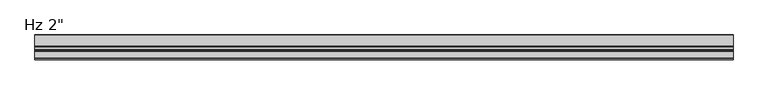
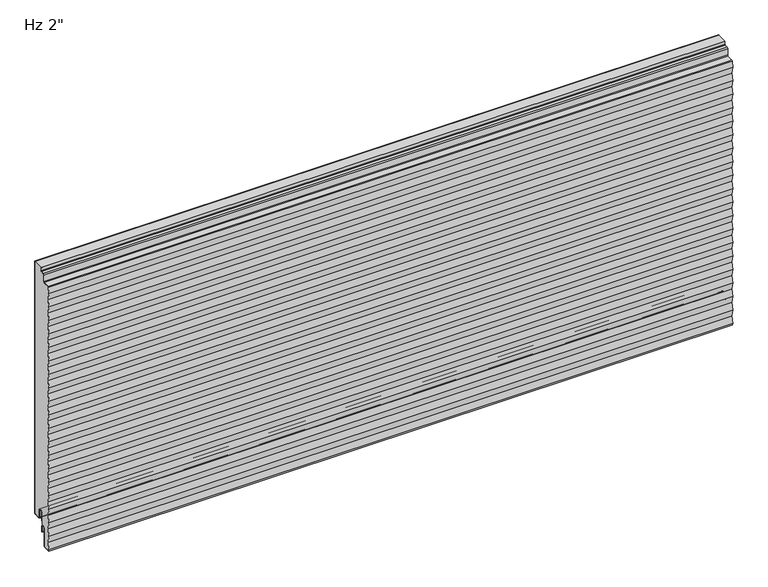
"""IFC4 building model written with IfcOpenShell, lengths in millimetres: plate geometry."""

from ifc_helpers import new_model, si_unit, point, frame, frame_2d, origin, place, context, project, spatial, polyline, circle_curve, trimmed, segment, composite_curve, outline, extrude, source, transform, mapped, element, save


def plate_2a746afc(model_context):
    return source(origin(), model_context, "Body", "SweptSolid", [
        extrude(outline(composite_curve([segment(polyline([(-22.8125, 564.5620957), (-22.8125, 571.2), (-1.0, 571.2), (-1.0, 3.175)]), True, "CONTINUOUS"), segment(trimmed(circle_curve(frame_2d((-2.38125, 3.175)), 1.38125), [point((-1.0, 3.175))], [point((-2.38125, 1.79375))], False, "CARTESIAN"), True, "CONTINUOUS"), segment(polyline([(-2.38125, 1.79375), (-15.08125, 1.79375)]), True, "CONTINUOUS"), segment(trimmed(circle_curve(frame_2d((-15.08125, 3.175)), 1.38125), [point((-15.08125, 1.79375))], [point((-16.4625, 3.175))], False, "CARTESIAN"), True, "CONTINUOUS"), segment(polyline([(-16.4625, 3.175), (-16.4625, 19.05)]), True, "CONTINUOUS"), segment(trimmed(circle_curve(frame_2d((-21.43125, 19.05)), 4.96875), [point((-16.4625, 19.05))], [point((-26.4, 19.05))], True, "CARTESIAN"), True, "CONTINUOUS"), segment(polyline([(-26.4, 19.05), (-26.4, -6.9375), (-30.95625, -6.9375)]), True, "CONTINUOUS"), segment(trimmed(circle_curve(frame_2d((-30.95625, -11.90625)), 4.96875), [point((-30.95625, -6.9375))], [point((-35.925, -11.90625))], True, "CARTESIAN"), True, "CONTINUOUS"), segment(polyline([(-35.925, -11.90625), (-35.925, -50.0895546)]), True, "CONTINUOUS"), segment(trimmed(circle_curve(frame_2d((-37.30625, -50.0895546)), 1.38125), [point((-35.925, -50.0895546))], [point((-37.233961, -51.4689117))], False, "CARTESIAN"), True, "CONTINUOUS"), segment(polyline([(-37.233961, -51.4689117), (-50.4085109, -52.1593606), (-50.9378194, -48.8511825), (-48.4994194, -33.6111825), (-50.9378194, -18.3711825), (-48.4994194, -3.1311825), (-50.9378194, 12.1088175), (-48.4994194, 27.3488175), (-50.9378194, 42.5888175), (-48.4994194, 57.8288175), (-50.9378194, 73.0688175), (-48.4994194, 88.3088175), (-50.9378194, 103.5488175), (-48.4994194, 118.7888175), (-50.9378194, 134.0288175), (-48.4994194, 149.2688175), (-50.9378194, 164.5088175), (-48.4994194, 179.7488175), (-50.9378194, 194.9888175), (-48.4994194, 210.2288175), (-50.9378194, 225.4688175), (-48.4994194, 240.7088175), (-50.9378194, 255.9488175), (-48.4994194, 271.1888175), (-50.9378194, 286.4288175), (-48.4994194, 301.6688175), (-50.9378194, 316.9088175), (-48.4994194, 332.1488175), (-50.9378194, 347.3888175), (-48.4994194, 362.6288175), (-50.9378194, 377.8688175), (-48.4994194, 393.1088175), (-50.9378194, 408.3488175), (-48.4994194, 423.5888175), (-50.9378194, 438.8288175), (-48.4994194, 454.0688175), (-50.9378194, 469.3088175), (-48.4994194, 484.5488175), (-50.9378194, 499.7888175), (-48.4994194, 515.0288175), (-50.9054086, 530.06625), (-48.8673048, 542.8043985), (-34.7895807, 543.5421807)]), True, "CONTINUOUS"), segment(trimmed(circle_curve(frame_2d((-34.925, 546.1261347)), 2.5875), [point((-34.7895807, 543.5421807))], [point((-32.3375, 546.1261347))], True, "CARTESIAN"), True, "CONTINUOUS"), segment(polyline([(-32.3375, 546.1261347), (-32.3375, 560.2967085)]), True, "CONTINUOUS"), segment(trimmed(circle_curve(frame_2d((-30.95625, 560.2967085)), 1.38125), [point((-32.3375, 560.2967085))], [point((-31.028539, 561.6760655))], False, "CARTESIAN"), True, "CONTINUOUS"), segment(polyline([(-31.028539, 561.6760655), (-25.2645807, 561.9781418)]), True, "CONTINUOUS"), segment(trimmed(circle_curve(frame_2d((-25.4, 564.5620957)), 2.5875), [point((-25.2645807, 561.9781418))], [point((-22.8125, 564.5620957))], True, "CARTESIAN"), True, "CONTINUOUS")], self_intersect=False)), frame((-730.0, 0.0, 0.0), z_axis=(1.0, 0.0, 0.0), x_axis=(0.0, 1.0, 0.0)), (0.0, 0.0, 1.0), 1460.0),
        extrude(outline(composite_curve([segment(polyline([(-25.4, 0.79375), (-26.4, 0.79375), (-26.4, 19.05)]), True, "CONTINUOUS"), segment(trimmed(circle_curve(frame_2d((-21.43125, 19.05)), 4.96875), [point((-26.4, 19.05))], [point((-16.4625, 19.05))], False, "CARTESIAN"), True, "CONTINUOUS"), segment(polyline([(-16.4625, 19.05), (-16.4625, 3.175)]), True, "CONTINUOUS"), segment(trimmed(circle_curve(frame_2d((-15.08125, 3.175)), 1.38125), [point((-16.4625, 3.175))], [point((-15.08125, 1.79375))], True, "CARTESIAN"), True, "CONTINUOUS"), segment(polyline([(-15.08125, 1.79375), (-2.38125, 1.79375)]), True, "CONTINUOUS"), segment(trimmed(circle_curve(frame_2d((-2.38125, 3.175)), 1.38125), [point((-2.38125, 1.79375))], [point((-1.0, 3.175))], True, "CARTESIAN"), True, "CONTINUOUS"), segment(polyline([(-1.0, 3.175), (-1.0, 571.2), (0.0, 571.2), (0.0, 3.175)]), True, "CONTINUOUS"), segment(trimmed(circle_curve(frame_2d((-2.38125, 3.175)), 2.38125), [point((0.0, 3.175))], [point((-2.38125, 0.79375))], False, "CARTESIAN"), True, "CONTINUOUS"), segment(polyline([(-2.38125, 0.79375), (-15.08125, 0.79375)]), True, "CONTINUOUS"), segment(trimmed(circle_curve(frame_2d((-15.08125, 3.175)), 2.38125), [point((-15.08125, 0.79375))], [point((-17.4625, 3.175))], False, "CARTESIAN"), True, "CONTINUOUS"), segment(polyline([(-17.4625, 3.175), (-17.4625, 19.05)]), True, "CONTINUOUS"), segment(trimmed(circle_curve(frame_2d((-21.43125, 19.05)), 3.96875), [point((-17.4625, 19.05))], [point((-25.4, 19.05))], True, "CARTESIAN"), True, "CONTINUOUS"), segment(polyline([(-25.4, 19.05), (-25.4, 0.79375)]), True, "CONTINUOUS")], self_intersect=False)), frame((-730.0, 0.0, 0.0), z_axis=(1.0, 0.0, 0.0), x_axis=(0.0, 1.0, 0.0)), (0.0, 0.0, 1.0), 1460.0),
        extrude(outline(composite_curve([segment(trimmed(circle_curve(frame_2d((-26.19375, -23.2314549)), 0.79375), [point((-25.4, -23.2314549))], [point((-26.9875, -23.2314549))], False, "CARTESIAN"), True, "CONTINUOUS"), segment(polyline([(-26.9875, -23.2314549), (-26.9875, -11.9205174)]), True, "CONTINUOUS"), segment(trimmed(circle_curve(frame_2d((-30.95625, -11.9205174)), 3.96875), [point((-26.9875, -11.9205174))], [point((-34.925, -11.9205174))], True, "CARTESIAN"), True, "CONTINUOUS"), segment(polyline([(-34.925, -11.9205174), (-34.925, -50.1038221)]), True, "CONTINUOUS"), segment(trimmed(circle_curve(frame_2d((-37.30625, -50.1038221)), 2.38125), [point((-34.925, -50.1038221))], [point((-37.181625, -52.4818086))], False, "CARTESIAN"), True, "CONTINUOUS"), segment(polyline([(-37.181625, -52.4818086), (-51.3543553, -53.22457), (-52.0509395, -48.8709186), (-49.6125395, -33.6309186), (-52.0509395, -18.3909186), (-49.6125395, -3.1509186), (-52.0509395, 12.0890814), (-49.6125395, 27.3290814), (-52.0509395, 42.5690814), (-49.6125395, 57.8090814), (-52.0509395, 73.0490814), (-49.6125395, 88.2890814), (-52.0509395, 103.5290814), (-49.6125395, 118.7690814), (-52.0509395, 134.0090814), (-49.6125395, 149.2490814), (-52.0509395, 164.4890814), (-49.6125395, 179.7290814), (-52.0509395, 194.9690814), (-49.6125395, 210.2090814), (-52.0509395, 225.4490814), (-49.6125395, 240.6890814), (-52.0509395, 255.9290814), (-49.6125395, 271.1690814), (-52.0509395, 286.4090814), (-49.6125395, 301.6490814), (-52.0509395, 316.8890814), (-49.6125395, 332.1290814), (-52.0509395, 347.3690814), (-49.6125395, 362.6090814), (-52.0509395, 377.8490814), (-49.6125395, 393.0890814), (-52.0509395, 408.3290814), (-49.6125395, 423.5690814), (-52.0509395, 438.8090814), (-49.6125395, 454.0490814), (-52.0509395, 469.2890814), (-49.6125395, 484.5290814), (-52.0509395, 499.7690814), (-49.6125395, 515.0090814), (-52.0185287, 530.0465139), (-50.0278537, 542.4882328)]), True, "CONTINUOUS"), segment(trimmed(circle_curve(frame_2d((-48.4602917, 542.2374229)), 1.5875), [point((-50.0278537, 542.4882328))], [point((-48.543375, 543.8227473))], False, "CARTESIAN"), True, "CONTINUOUS"), segment(polyline([(-48.543375, 543.8227473), (-34.8419167, 544.5408103)]), True, "CONTINUOUS"), segment(trimmed(circle_curve(frame_2d((-34.925, 546.1261347)), 1.5875), [point((-34.8419167, 544.5408103))], [point((-33.3375, 546.1261347))], True, "CARTESIAN"), True, "CONTINUOUS"), segment(polyline([(-33.3375, 546.1261347), (-33.3375, 560.2824411)]), True, "CONTINUOUS"), segment(trimmed(circle_curve(frame_2d((-30.95625, 560.2824411)), 2.38125), [point((-33.3375, 560.2824411))], [point((-31.080875, 562.6604276))], False, "CARTESIAN"), True, "CONTINUOUS"), segment(polyline([(-31.080875, 562.6604276), (-25.3169167, 562.9625039)]), True, "CONTINUOUS"), segment(trimmed(circle_curve(frame_2d((-25.4, 564.5478283)), 1.5875), [point((-25.3169167, 562.9625039))], [point((-23.8125, 564.5478283))], True, "CARTESIAN"), True, "CONTINUOUS"), segment(polyline([(-23.8125, 564.5478283), (-23.8125, 571.2), (-22.8125, 571.2), (-22.8125, 564.5478283)]), True, "CONTINUOUS"), segment(trimmed(circle_curve(frame_2d((-25.4, 564.5478283)), 2.5875), [point((-22.8125, 564.5478283))], [point((-25.2645807, 561.9638744))], False, "CARTESIAN"), True, "CONTINUOUS"), segment(polyline([(-25.2645807, 561.9638744), (-31.028539, 561.6617981)]), True, "CONTINUOUS"), segment(trimmed(circle_curve(frame_2d((-30.95625, 560.2824411)), 1.38125), [point((-31.028539, 561.6617981))], [point((-32.3375, 560.2824411))], True, "CARTESIAN"), True, "CONTINUOUS"), segment(polyline([(-32.3375, 560.2824411), (-32.3375, 546.1261347)]), True, "CONTINUOUS"), segment(trimmed(circle_curve(frame_2d((-34.925, 546.1261347)), 2.5875), [point((-32.3375, 546.1261347))], [point((-34.7895807, 543.5421807))], False, "CARTESIAN"), True, "CONTINUOUS"), segment(polyline([(-34.7895807, 543.5421807), (-48.491039, 542.8241177)]), True, "CONTINUOUS"), segment(trimmed(circle_curve(frame_2d((-48.4602917, 542.2374229)), 0.5875), [point((-48.491039, 542.8241177))], [point((-49.040413, 542.3302423))], True, "CARTESIAN"), True, "CONTINUOUS"), segment(polyline([(-49.040413, 542.3302423), (-51.0058096, 530.0465139), (-48.5998204, 515.0090814), (-51.0382204, 499.7690814), (-48.5998204, 484.5290814), (-51.0382204, 469.2890814), (-48.5998204, 454.0490814), (-51.0382204, 438.8090814), (-48.5998204, 423.5690814), (-51.0382204, 408.3290814), (-48.5998204, 393.0890814), (-51.0382204, 377.8490814), (-48.5998204, 362.6090814), (-51.0382204, 347.3690814), (-48.5998204, 332.1290814), (-51.0382204, 316.8890814), (-48.5998204, 301.6490814), (-51.0382204, 286.4090814), (-48.5998204, 271.1690814), (-51.0382204, 255.9290814), (-48.5998204, 240.6890814), (-51.0382204, 225.4490814), (-48.5998204, 210.2090814), (-51.0382204, 194.9690814), (-48.5998204, 179.7290814), (-51.0382204, 164.4890814), (-48.5998204, 149.2490814), (-51.0382204, 134.0090814), (-48.5998204, 118.7690814), (-51.0382204, 103.5290814), (-48.5998204, 88.2890814), (-51.0382204, 73.0490814), (-48.5998204, 57.8090814), (-51.0382204, 42.5690814), (-48.5998204, 27.3290814), (-51.0382204, 12.0890814), (-48.5998204, -3.1509186), (-51.0382204, -18.3909186), (-48.5998204, -33.6309186), (-51.0382204, -48.8709186), (-50.5089447, -52.1788915), (-37.233961, -51.4831791)]), True, "CONTINUOUS"), segment(trimmed(circle_curve(frame_2d((-37.30625, -50.1038221)), 1.38125), [point((-37.233961, -51.4831791))], [point((-35.925, -50.1038221))], True, "CARTESIAN"), True, "CONTINUOUS"), segment(polyline([(-35.925, -50.1038221), (-35.925, -11.9205174)]), True, "CONTINUOUS"), segment(trimmed(circle_curve(frame_2d((-30.95625, -11.9205174)), 4.96875), [point((-35.925, -11.9205174))], [point((-25.9875, -11.9205174))], False, "CARTESIAN"), True, "CONTINUOUS"), segment(polyline([(-25.9875, -11.9205174), (-26.19375, -13.5080174), (-25.4, -13.5080174), (-25.4, -23.2314549)]), True, "CONTINUOUS")], self_intersect=False)), frame((-730.0, 0.0, 0.0), z_axis=(1.0, 0.0, 0.0), x_axis=(0.0, 1.0, 0.0)), (0.0, 0.0, 1.0), 1460.0),
    ])


if __name__ == "__main__":
    model = new_model("IFC4")
    model_context = context("Model", 3, world=origin())
    ifc_project = project(units=[si_unit("LENGTHUNIT", "METRE", prefix="MILLI")], contexts=[model_context])
    site = spatial("IfcSite", under=ifc_project)
    building = spatial("IfcBuilding", under=site)
    placement = place(None, origin())
    plate_shape = plate_2a746afc(model_context)
    element("IfcPlate", 1, ObjectType="KIP-24-DWHR-R19-CP-Hz-S : Hz 2\"", at=placement, inside=building, context=model_context, shape_type="MappedRepresentation", body=[
        mapped(plate_shape, transform((0.0, 0.0, 0.0), x_axis=(1.0, 0.0, 0.0), y_axis=(0.0, 1.0, 0.0), z_axis=(0.0, 0.0, 1.0))),
    ])
    save(model, "model.ifc")
